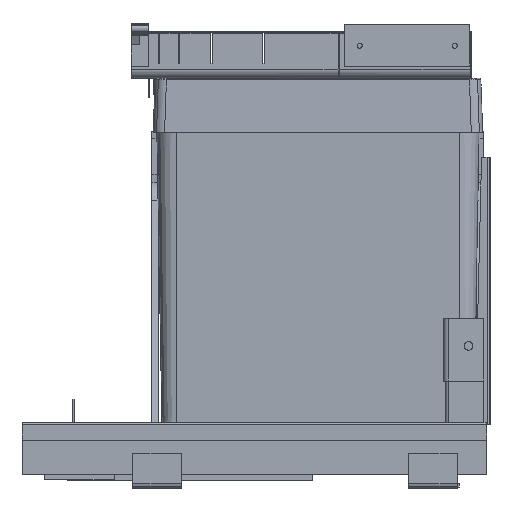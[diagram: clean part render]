
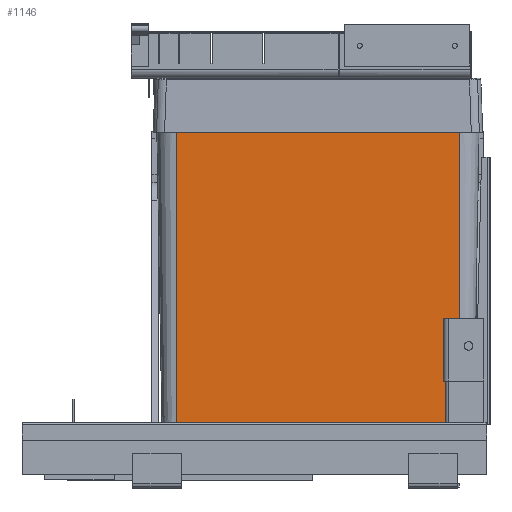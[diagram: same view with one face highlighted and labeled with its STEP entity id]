
A CAD part, left-side view. The second image highlights one B-rep face of the part: STEP entity #1146.
In plain terms, the highlighted planar face has unit normal (-1, 0, -0.018).
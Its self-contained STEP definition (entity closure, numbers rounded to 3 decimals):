
#1146=ADVANCED_FACE('',(#2996),#2997,.T.);
#2996=FACE_OUTER_BOUND('',#6251,.T.);
#2997=PLANE('',#6252);
#6251=EDGE_LOOP('',(#11367,#11368,#11369,#11370));
#6252=AXIS2_PLACEMENT_3D('',#11371,#11372,#11373);
#11367=ORIENTED_EDGE('',*,*,#19074,.T.);
#11368=ORIENTED_EDGE('',*,*,#19113,.F.);
#11369=ORIENTED_EDGE('',*,*,#19114,.F.);
#11370=ORIENTED_EDGE('',*,*,#19106,.T.);
#11371=CARTESIAN_POINT('',(-236.8,28.2,21.6));
#11372=DIRECTION('',(-1.,0.,-0.017));
#11373=DIRECTION('',(0.,-1.0,0.0));
#19074=EDGE_CURVE('',#22849,#22846,#22850,.T.);
#19106=EDGE_CURVE('',#22903,#22849,#22904,.T.);
#19113=EDGE_CURVE('',#22915,#22846,#22916,.T.);
#19114=EDGE_CURVE('',#22903,#22915,#22917,.T.);
#22846=VERTEX_POINT('',#27990);
#22849=VERTEX_POINT('',#27993);
#22850=LINE('',#27994,#27995);
#22903=VERTEX_POINT('',#28082);
#22904=LINE('',#28083,#28084);
#22915=VERTEX_POINT('',#28125);
#22916=LINE('',#28126,#28127);
#22917=LINE('',#28128,#28129);
#27990=CARTESIAN_POINT('',(-242.954,326.6,374.17));
#27993=CARTESIAN_POINT('',(-242.954,28.2,374.17));
#27994=CARTESIAN_POINT('',(-242.954,102.8,374.17));
#27995=VECTOR('',#34290,10.0);
#28082=CARTESIAN_POINT('',(-237.622,28.2,68.7));
#28083=CARTESIAN_POINT('',(-236.8,28.2,21.6));
#28084=VECTOR('',#34334,10.0);
#28125=CARTESIAN_POINT('',(-237.622,326.6,68.7));
#28126=CARTESIAN_POINT('',(-236.8,326.6,21.6));
#28127=VECTOR('',#34344,10.0);
#28128=CARTESIAN_POINT('',(-237.622,14.1,68.7));
#28129=VECTOR('',#34345,10.0);
#34290=DIRECTION('',(0.,1.0,0.));
#34334=DIRECTION('',(-0.017,0.0,1.));
#34344=DIRECTION('',(-0.017,0.0,1.));
#34345=DIRECTION('',(0.,1.0,0.0));
